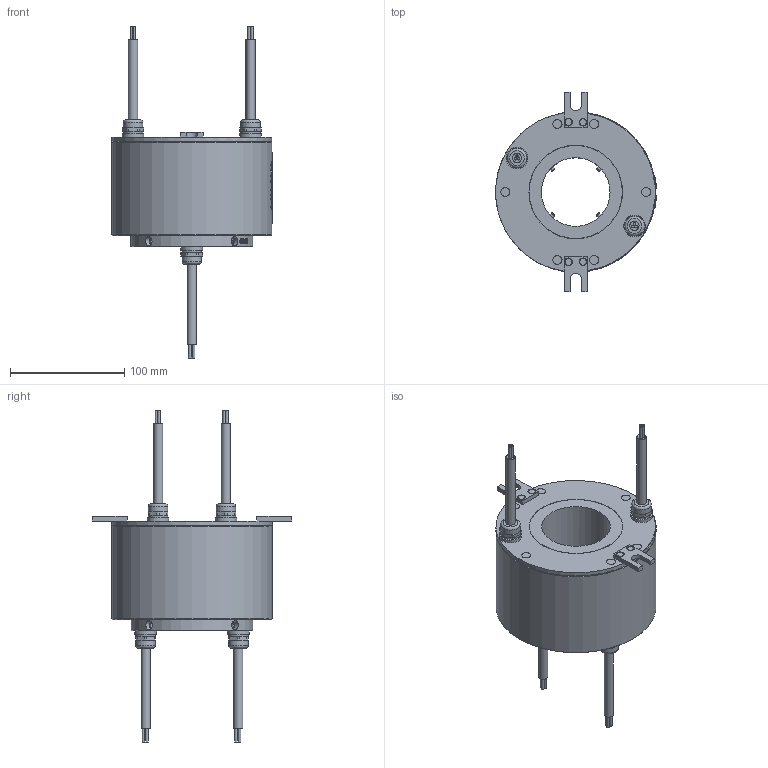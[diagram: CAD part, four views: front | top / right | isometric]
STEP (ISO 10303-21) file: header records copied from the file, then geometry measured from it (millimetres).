
FILE_DESCRIPTION(/* description */ (''),/* implementation_level */ '2;1');
FILE_NAME(/* name */ 'HDF60140-0610-3D模型.stp',/* time_stamp */ '2025-09-25T15:21:17+08:00',/* author */ (''),/* organization */ (''),/* preprocessor_version */ 'ST-DEVELOPER v16.7',/* originating_system */ 'SIEMENS PLM Software NX 12.0',/* authorisation */ '');
FILE_SCHEMA (('AUTOMOTIVE_DESIGN { 1 0 10303 214 3 1 1 1 }'));
Length unit declared in the file: millimetre
Products named in the file (1): Admi4334A7244gik
Bounding box: 140.45 x 174 x 290 mm (x, y, z)
Volume: 1168188.1 mm3; surface area: 105825.9 mm2
Topology: 1 solids, 7 shells, 887 faces, 2277 edges, 1501 vertices
Faces by surface type: plane 408, extrusion 313, cylinder 114, bspline 26, cone 18, torus 8
Full cylindrical faces by diameter (mm): 2.2 x12, 3 x4, 3.4 x4, 4 x4, 6 x4, 7 x4, 8 x14, 10.2 x2, 17 x8, 19 x4, 60 x1, 81.4 x1, 81.8 x1, 85 x1, 106.4 x1, 106.8 x1, 117.4 x1, 134.2 x1, 134.6 x1, 140 x2
Entity records: 32006 total; most frequent: CARTESIAN_POINT 13275, ORIENTED_EDGE 4286, DIRECTION 2683, EDGE_CURVE 2143, B_SPLINE_CURVE_WITH_KNOTS 1620, VERTEX_POINT 1463, EDGE_LOOP 1090, AXIS2_PLACEMENT_3D 985
